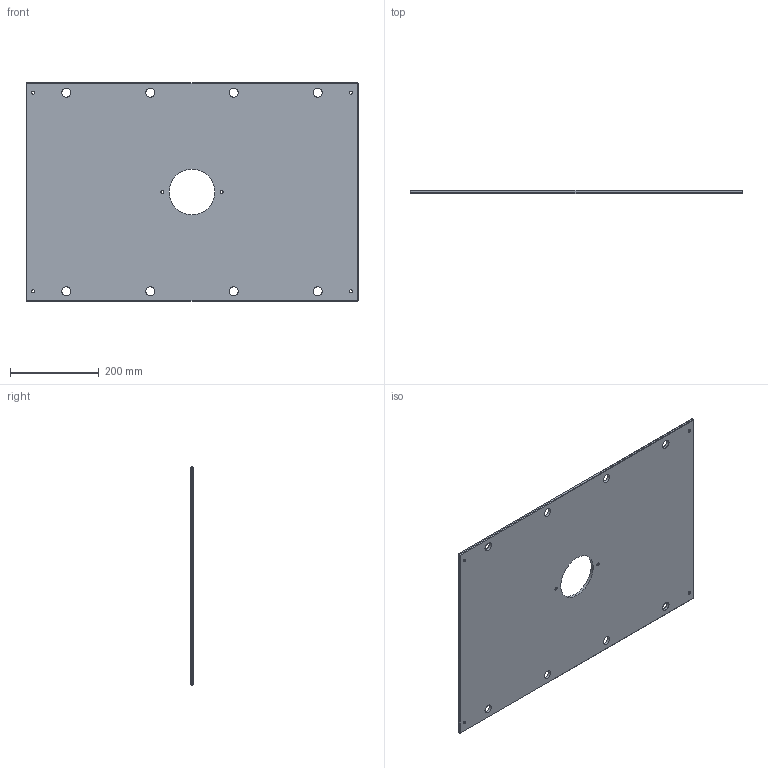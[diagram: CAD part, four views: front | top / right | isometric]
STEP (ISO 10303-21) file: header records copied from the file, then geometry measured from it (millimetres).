
FILE_DESCRIPTION (( 'STEP AP214' ), '1' );
FILE_NAME ('ME-0619-CH-1929.STEP', '2020-02-12T06:24:38', ( '' ), ( '' ), 'SwSTEP 2.0', 'SolidWorks 2018', '' );
FILE_SCHEMA (( 'AUTOMOTIVE_DESIGN' ));
Length unit declared in the file: inch
Products named in the file (1): ME-0619-CH-1929
Bounding box: 746.12 x 6.35 x 492.12 mm (x, y, z)
Volume: 2256098.5 mm3; surface area: 730180.3 mm2
Topology: 1 solids, 1 shells, 68 faces, 162 edges, 96 vertices
Faces by surface type: cylinder 30, plane 26, cone 12
Entity records: 2050 total; most frequent: DIRECTION 372, CARTESIAN_POINT 327, ORIENTED_EDGE 324, EDGE_CURVE 162, AXIS2_PLACEMENT_3D 141, EDGE_LOOP 98, VERTEX_POINT 96, LINE 90
